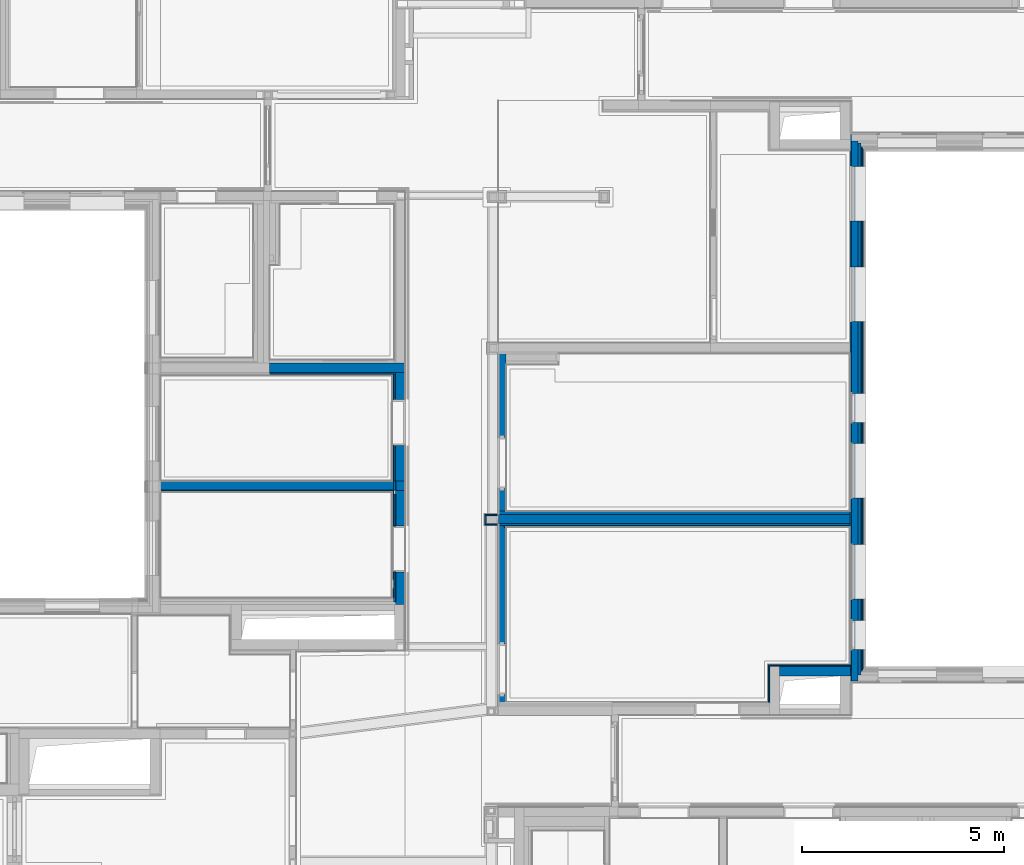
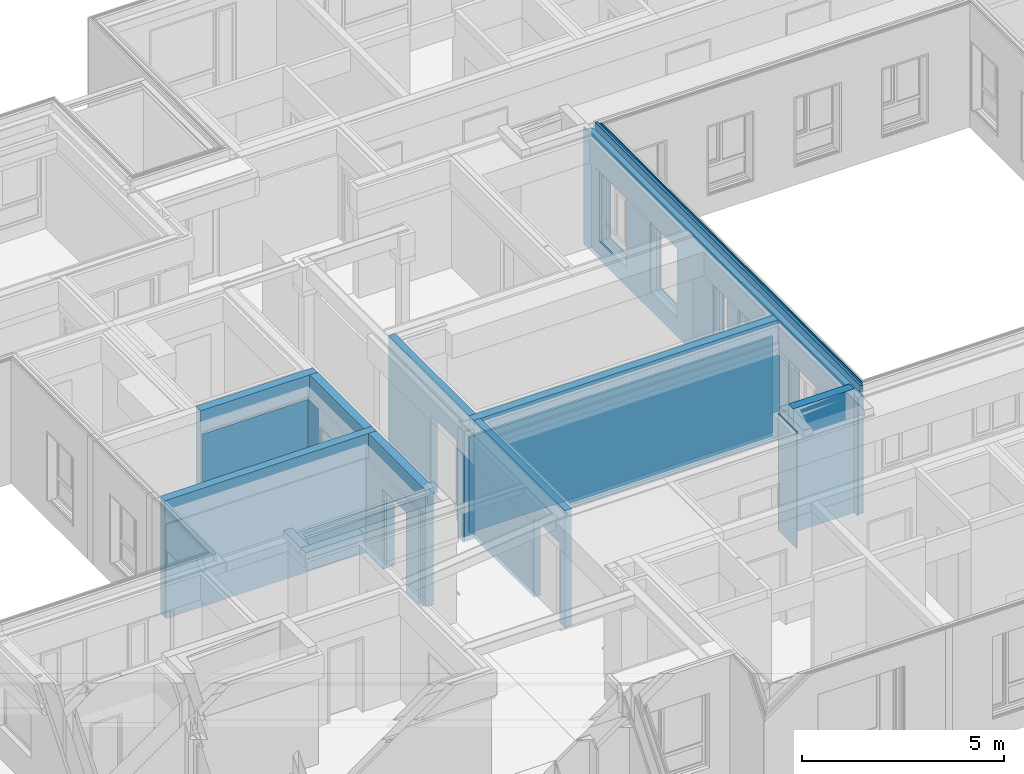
# One storey, part 44 of 222: 28 walls, 38 openings.
"""IFC4 building model written with IfcOpenShell, lengths in metres."""

from ifc_helpers import new_model, entity, si_unit, converted_unit, derived_unit, frame, frame_2d, origin, origin_with_axes, place, context, subcontext, project, spatial, polyline, rectangle, outline, extrude, clip, bounded_halfspace, material, element, save


model = new_model("IFC4")

# Units and contexts
model_context = context("Model", 3, precision=1e-05, world=origin())
body_context = subcontext(model_context, "Body", "Model", "MODEL_VIEW")
ifc_project = project(units=[si_unit("LENGTHUNIT", "METRE"), si_unit("AREAUNIT", "SQUARE_METRE"), si_unit("VOLUMEUNIT", "CUBIC_METRE"), si_unit("MASSUNIT", "GRAM", prefix="KILO"), converted_unit("PLANEANGLEUNIT", "DEGREE", entity("IfcPlaneAngleMeasure", 0.0174532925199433), si_unit("PLANEANGLEUNIT", "RADIAN"), dimensions=[0, 0, 0, 0, 0, 0, 0]), derived_unit("THERMALTRANSMITTANCEUNIT", [(si_unit("POWERUNIT", "WATT"), 1), (si_unit("THERMODYNAMICTEMPERATUREUNIT", "KELVIN"), -1), (si_unit("LENGTHUNIT", "METRE"), -2)]), derived_unit("VOLUMETRICFLOWRATEUNIT", [(si_unit("LENGTHUNIT", "METRE"), 3), (converted_unit("TIMEUNIT", "hour", entity("IfcTimeMeasure", 3600.0), si_unit("TIMEUNIT", "SECOND"), dimensions=[0, 0, 1, 0, 0, 0, 0]), -1), (si_unit("LENGTHUNIT", "METRE"), -1)])], contexts=[model_context])

# Site, building, storey
site_placement = place(None, origin())
site = spatial("IfcSite", under=ifc_project, at=site_placement, Name="Psychiatrie Neubau Wunstorf", CompositionType="ELEMENT")
building_placement = place(site_placement, origin())
building = spatial("IfcBuilding", under=site, at=building_placement, Name="Neubau H2 Stationsgebäude", CompositionType="ELEMENT")
storey_placement = place(building_placement, frame((0.0, 0.0, 3.6)))
storey = spatial("IfcBuildingStorey", under=building, at=storey_placement, Name="H2 Ebene +1", CompositionType="ELEMENT", Elevation=3.6)

# Wall, openings
ifc_material_1 = material(Name="WA-LB")
wall_1_placement = place(storey_placement, frame((79.139, 22.0, 0.0), z_axis=(0.0, 0.0, 1.0), x_axis=(0.0, -1.0, 0.0)))
wall_1 = element("IfcWall", 1, at=wall_1_placement, inside=storey, material=ifc_material_1, context=body_context, shape_type="SweptSolid", body=[
    extrude(rectangle(XDim=13.586, YDim=0.036, at=frame_2d((6.793, 0.018), x_axis=(1.0, 0.0))), origin_with_axes(), (0.0, 0.0, 1.0), 3.55),
])
opening_1_placement = place(wall_1_placement, frame((11.5165865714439, 0.036, 0.55), z_axis=(0.0, -1.0, 0.0), x_axis=(0.0, 0.0, 1.0)))
element("IfcOpeningElement", 2, at=opening_1_placement, cuts=wall_1, Name="Fensteröffnung", ObjectType="Opening", context=body_context, shape_type="SweptSolid", body=[
    extrude(outline(polyline([(2.115, 1.35), (2.115, 0.0), (0.0, 0.0), (0.0, 1.35), (2.115, 1.35)])), origin_with_axes(), (0.0, 0.0, 1.0), 0.036),
])
opening_2_placement = place(wall_1_placement, frame((9.01664412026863, 0.036, 0.55), z_axis=(0.0, -1.0, 0.0), x_axis=(0.0, 0.0, 1.0)))
element("IfcOpeningElement", 3, at=opening_2_placement, cuts=wall_1, Name="Fensteröffnung", ObjectType="Opening", context=body_context, shape_type="SweptSolid", body=[
    extrude(outline(polyline([(2.115, 1.35), (2.115, 0.0), (0.0, 0.0), (0.0, 1.35), (2.115, 1.35)])), origin_with_axes(), (0.0, 0.0, 1.0), 0.036),
])
opening_3_placement = place(wall_1_placement, frame((4.64200464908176, 0.036, 0.55), z_axis=(0.0, -1.0, 0.0), x_axis=(0.0, 0.0, 1.0)))
element("IfcOpeningElement", 4, at=opening_3_placement, cuts=wall_1, Name="Fensteröffnung", ObjectType="Opening", context=body_context, shape_type="SweptSolid", body=[
    extrude(outline(polyline([(2.115, 1.35), (2.115, 0.0), (0.0, 0.0), (0.0, 1.35), (2.115, 1.35)])), origin_with_axes(), (0.0, 0.0, 1.0), 0.036),
])
opening_4_placement = place(wall_1_placement, frame((2.14244478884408, 0.036, 0.55), z_axis=(0.0, -1.0, 0.0), x_axis=(0.0, 0.0, 1.0)))
element("IfcOpeningElement", 5, at=opening_4_placement, cuts=wall_1, Name="Fensteröffnung", ObjectType="Opening", context=body_context, shape_type="SweptSolid", body=[
    extrude(outline(polyline([(2.115, 1.35), (2.115, 0.0), (0.0, 0.0), (0.0, 1.35), (2.115, 1.35)])), origin_with_axes(), (0.0, 0.0, 1.0), 0.036),
])
opening_5_placement = place(wall_1_placement, frame((12.7649999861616, 0.036, 0.55), z_axis=(0.0, -1.0, 0.0), x_axis=(0.0, 0.0, 1.0)))
element("IfcOpeningElement", 6, at=opening_5_placement, cuts=wall_1, Name="Fensteröffnung", ObjectType="Opening", context=body_context, shape_type="SweptSolid", body=[
    extrude(outline(polyline([(2.115, 0.725), (2.115, 0.0), (0.0, 0.0), (0.0, 0.725), (2.115, 0.725)])), origin_with_axes(), (0.0, 0.0, 1.0), 0.036),
])
opening_6_placement = place(wall_1_placement, frame((7.14238722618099, 0.036, 0.55), z_axis=(0.0, -1.0, 0.0), x_axis=(0.0, 0.0, 1.0)))
element("IfcOpeningElement", 7, at=opening_6_placement, cuts=wall_1, Name="Fensteröffnung", ObjectType="Opening", context=body_context, shape_type="SweptSolid", body=[
    extrude(outline(polyline([(2.115, 0.725), (2.115, 0.0), (0.0, 0.0), (0.0, 0.725), (2.115, 0.725)])), origin_with_axes(), (0.0, 0.0, 1.0), 0.036),
])

ifc_material_2 = material(Name="WA-DL")
wall_2_placement = place(storey_placement, frame((79.175, 21.840001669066, 0.0), z_axis=(0.0, 0.0, 1.0), x_axis=(0.0, -1.0, 0.0)))
wall_2 = element("IfcWall", 8, at=wall_2_placement, inside=storey, material=ifc_material_2, context=body_context, shape_type="SweptSolid", body=[
    extrude(rectangle(XDim=13.390001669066, YDim=0.16, at=frame_2d((6.695000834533, 0.08), x_axis=(1.0, 0.0))), origin_with_axes(), (0.0, 0.0, 1.0), 3.55),
])
opening_7_placement = place(wall_2_placement, frame((11.3565882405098, 0.16, 0.55), z_axis=(0.0, -1.0, 0.0), x_axis=(0.0, 0.0, 1.0)))
element("IfcOpeningElement", 9, at=opening_7_placement, cuts=wall_2, Name="Fensteröffnung", ObjectType="Opening", context=body_context, shape_type="SweptSolid", body=[
    extrude(outline(polyline([(2.115, 1.35), (2.115, 0.0), (0.0, 0.0), (0.0, 1.35), (2.115, 1.35)])), origin_with_axes(), (0.0, 0.0, 1.0), 0.16),
])
opening_8_placement = place(wall_2_placement, frame((8.85664578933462, 0.16, 0.55), z_axis=(0.0, -1.0, 0.0), x_axis=(0.0, 0.0, 1.0)))
element("IfcOpeningElement", 10, at=opening_8_placement, cuts=wall_2, Name="Fensteröffnung", ObjectType="Opening", context=body_context, shape_type="SweptSolid", body=[
    extrude(outline(polyline([(2.115, 1.35), (2.115, 0.0), (0.0, 0.0), (0.0, 1.35), (2.115, 1.35)])), origin_with_axes(), (0.0, 0.0, 1.0), 0.16),
])
opening_9_placement = place(wall_2_placement, frame((4.48200631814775, 0.16, 0.55), z_axis=(0.0, -1.0, 0.0), x_axis=(0.0, 0.0, 1.0)))
element("IfcOpeningElement", 11, at=opening_9_placement, cuts=wall_2, Name="Fensteröffnung", ObjectType="Opening", context=body_context, shape_type="SweptSolid", body=[
    extrude(outline(polyline([(2.115, 1.35), (2.115, 0.0), (0.0, 0.0), (0.0, 1.35), (2.115, 1.35)])), origin_with_axes(), (0.0, 0.0, 1.0), 0.16),
])
opening_10_placement = place(wall_2_placement, frame((1.98244645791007, 0.16, 0.55), z_axis=(0.0, -1.0, 0.0), x_axis=(0.0, 0.0, 1.0)))
element("IfcOpeningElement", 12, at=opening_10_placement, cuts=wall_2, Name="Fensteröffnung", ObjectType="Opening", context=body_context, shape_type="SweptSolid", body=[
    extrude(outline(polyline([(2.115, 1.35), (2.115, 0.0), (0.0, 0.0), (0.0, 1.35), (2.115, 1.35)])), origin_with_axes(), (0.0, 0.0, 1.0), 0.16),
])
opening_11_placement = place(wall_2_placement, frame((12.6050016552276, 0.16, 0.55), z_axis=(0.0, -1.0, 0.0), x_axis=(0.0, 0.0, 1.0)))
element("IfcOpeningElement", 13, at=opening_11_placement, cuts=wall_2, Name="Fensteröffnung", ObjectType="Opening", context=body_context, shape_type="SweptSolid", body=[
    extrude(outline(polyline([(2.115, 0.725), (2.115, 0.0), (0.0, 0.0), (0.0, 0.725), (2.115, 0.725)])), origin_with_axes(), (0.0, 0.0, 1.0), 0.16),
])
opening_12_placement = place(wall_2_placement, frame((6.98238889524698, 0.16, 0.55), z_axis=(0.0, -1.0, 0.0), x_axis=(0.0, 0.0, 1.0)))
element("IfcOpeningElement", 14, at=opening_12_placement, cuts=wall_2, Name="Fensteröffnung", ObjectType="Opening", context=body_context, shape_type="SweptSolid", body=[
    extrude(outline(polyline([(2.115, 0.725), (2.115, 0.0), (0.0, 0.0), (0.0, 0.725), (2.115, 0.725)])), origin_with_axes(), (0.0, 0.0, 1.0), 0.16),
])

ifc_material_3 = material(Name="WA-DL")
wall_3_placement = place(storey_placement, frame((79.335, 21.780001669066, 0.0), z_axis=(0.0, 0.0, 1.0), x_axis=(0.0, -1.0, 0.0)))
wall_3 = element("IfcWall", 15, at=wall_3_placement, inside=storey, material=ifc_material_3, context=body_context, shape_type="SweptSolid", body=[
    extrude(rectangle(XDim=13.170001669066, YDim=0.08, at=frame_2d((6.585000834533, 0.04), x_axis=(1.0, 0.0))), origin_with_axes(), (0.0, 0.0, 1.0), 3.75),
])
opening_13_placement = place(wall_3_placement, frame((11.2965882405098, 0.08, 0.55), z_axis=(0.0, -1.0, 0.0), x_axis=(0.0, 0.0, 1.0)))
element("IfcOpeningElement", 16, at=opening_13_placement, cuts=wall_3, Name="Fensteröffnung", ObjectType="Opening", context=body_context, shape_type="SweptSolid", body=[
    extrude(outline(polyline([(2.115, 1.35), (2.115, 0.0), (0.0, 0.0), (0.0, 1.35), (2.115, 1.35)])), origin_with_axes(), (0.0, 0.0, 1.0), 0.08),
])
opening_14_placement = place(wall_3_placement, frame((8.79664578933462, 0.08, 0.55), z_axis=(0.0, -1.0, 0.0), x_axis=(0.0, 0.0, 1.0)))
element("IfcOpeningElement", 17, at=opening_14_placement, cuts=wall_3, Name="Fensteröffnung", ObjectType="Opening", context=body_context, shape_type="SweptSolid", body=[
    extrude(outline(polyline([(2.115, 1.35), (2.115, 0.0), (0.0, 0.0), (0.0, 1.35), (2.115, 1.35)])), origin_with_axes(), (0.0, 0.0, 1.0), 0.08),
])
opening_15_placement = place(wall_3_placement, frame((4.42200631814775, 0.08, 0.55), z_axis=(0.0, -1.0, 0.0), x_axis=(0.0, 0.0, 1.0)))
element("IfcOpeningElement", 18, at=opening_15_placement, cuts=wall_3, Name="Fensteröffnung", ObjectType="Opening", context=body_context, shape_type="SweptSolid", body=[
    extrude(outline(polyline([(2.115, 1.35), (2.115, 0.0), (0.0, 0.0), (0.0, 1.35), (2.115, 1.35)])), origin_with_axes(), (0.0, 0.0, 1.0), 0.08),
])
opening_16_placement = place(wall_3_placement, frame((1.92244645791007, 0.08, 0.55), z_axis=(0.0, -1.0, 0.0), x_axis=(0.0, 0.0, 1.0)))
element("IfcOpeningElement", 19, at=opening_16_placement, cuts=wall_3, Name="Fensteröffnung", ObjectType="Opening", context=body_context, shape_type="SweptSolid", body=[
    extrude(outline(polyline([(2.115, 1.35), (2.115, 0.0), (0.0, 0.0), (0.0, 1.35), (2.115, 1.35)])), origin_with_axes(), (0.0, 0.0, 1.0), 0.08),
])
opening_17_placement = place(wall_3_placement, frame((12.5450016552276, 0.08, 0.55), z_axis=(0.0, -1.0, 0.0), x_axis=(0.0, 0.0, 1.0)))
element("IfcOpeningElement", 20, at=opening_17_placement, cuts=wall_3, Name="Fensteröffnung", ObjectType="Opening", context=body_context, shape_type="SweptSolid", body=[
    extrude(outline(polyline([(2.115, 0.725), (2.115, 0.0), (0.0, 0.0), (0.0, 0.725), (2.115, 0.725)])), origin_with_axes(), (0.0, 0.0, 1.0), 0.08),
])
opening_18_placement = place(wall_3_placement, frame((6.92238889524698, 0.08, 0.55), z_axis=(0.0, -1.0, 0.0), x_axis=(0.0, 0.0, 1.0)))
element("IfcOpeningElement", 21, at=opening_18_placement, cuts=wall_3, Name="Fensteröffnung", ObjectType="Opening", context=body_context, shape_type="SweptSolid", body=[
    extrude(outline(polyline([(2.115, 0.725), (2.115, 0.0), (0.0, 0.0), (0.0, 0.725), (2.115, 0.725)])), origin_with_axes(), (0.0, 0.0, 1.0), 0.08),
])

ifc_material_4 = material(Name="WA-LB")
wall_4_placement = place(storey_placement, frame((79.415, 21.700001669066, 0.0), z_axis=(0.0, 0.0, 1.0), x_axis=(0.0, -1.0, 0.0)))
wall_4 = element("IfcWall", 22, at=wall_4_placement, inside=storey, material=ifc_material_4, context=body_context, shape_type="SweptSolid", body=[
    extrude(rectangle(XDim=13.0099924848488, YDim=0.036, at=frame_2d((6.50499624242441, 0.018), x_axis=(1.0, 0.0))), origin_with_axes(), (0.0, 0.0, 1.0), 3.75),
])
opening_19_placement = place(wall_4_placement, frame((11.2165882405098, 0.036, 0.55), z_axis=(0.0, -1.0, 0.0), x_axis=(0.0, 0.0, 1.0)))
element("IfcOpeningElement", 23, at=opening_19_placement, cuts=wall_4, Name="Fensteröffnung", ObjectType="Opening", context=body_context, shape_type="SweptSolid", body=[
    extrude(outline(polyline([(2.115, 1.35), (2.115, 0.0), (0.0, 0.0), (0.0, 1.35), (2.115, 1.35)])), origin_with_axes(), (0.0, 0.0, 1.0), 0.036),
])
opening_20_placement = place(wall_4_placement, frame((8.71664578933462, 0.036, 0.55), z_axis=(0.0, -1.0, 0.0), x_axis=(0.0, 0.0, 1.0)))
element("IfcOpeningElement", 24, at=opening_20_placement, cuts=wall_4, Name="Fensteröffnung", ObjectType="Opening", context=body_context, shape_type="SweptSolid", body=[
    extrude(outline(polyline([(2.115, 1.35), (2.115, 0.0), (0.0, 0.0), (0.0, 1.35), (2.115, 1.35)])), origin_with_axes(), (0.0, 0.0, 1.0), 0.036),
])
opening_21_placement = place(wall_4_placement, frame((4.34200631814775, 0.036, 0.55), z_axis=(0.0, -1.0, 0.0), x_axis=(0.0, 0.0, 1.0)))
element("IfcOpeningElement", 25, at=opening_21_placement, cuts=wall_4, Name="Fensteröffnung", ObjectType="Opening", context=body_context, shape_type="SweptSolid", body=[
    extrude(outline(polyline([(2.115, 1.35), (2.115, 0.0), (0.0, 0.0), (0.0, 1.35), (2.115, 1.35)])), origin_with_axes(), (0.0, 0.0, 1.0), 0.036),
])
opening_22_placement = place(wall_4_placement, frame((1.84244645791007, 0.036, 0.55), z_axis=(0.0, -1.0, 0.0), x_axis=(0.0, 0.0, 1.0)))
element("IfcOpeningElement", 26, at=opening_22_placement, cuts=wall_4, Name="Fensteröffnung", ObjectType="Opening", context=body_context, shape_type="SweptSolid", body=[
    extrude(outline(polyline([(2.115, 1.35), (2.115, 0.0), (0.0, 0.0), (0.0, 1.35), (2.115, 1.35)])), origin_with_axes(), (0.0, 0.0, 1.0), 0.036),
])
opening_23_placement = place(wall_4_placement, frame((12.4650016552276, 0.036, 0.55), z_axis=(0.0, -1.0, 0.0), x_axis=(0.0, 0.0, 1.0)))
element("IfcOpeningElement", 27, at=opening_23_placement, cuts=wall_4, Name="Fensteröffnung", ObjectType="Opening", context=body_context, shape_type="SweptSolid", body=[
    extrude(outline(polyline([(2.115, 0.725), (2.115, 0.0), (0.0, 0.0), (0.0, 0.725), (2.115, 0.725)])), origin_with_axes(), (0.0, 0.0, 1.0), 0.036),
])
opening_24_placement = place(wall_4_placement, frame((6.84238889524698, 0.036, 0.55), z_axis=(0.0, -1.0, 0.0), x_axis=(0.0, 0.0, 1.0)))
element("IfcOpeningElement", 28, at=opening_24_placement, cuts=wall_4, Name="Fensteröffnung", ObjectType="Opening", context=body_context, shape_type="SweptSolid", body=[
    extrude(outline(polyline([(2.115, 0.725), (2.115, 0.0), (0.0, 0.0), (0.0, 0.725), (2.115, 0.725)])), origin_with_axes(), (0.0, 0.0, 1.0), 0.036),
])

ifc_material_5 = material(Name="WA-KL")
wall_5_placement = place(storey_placement, frame((79.451, 21.664001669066, 0.0), z_axis=(0.0, 0.0, 1.0), x_axis=(0.0, -1.0, 0.0)))
wall_5 = element("IfcWall", 29, at=wall_5_placement, inside=storey, material=ifc_material_5, context=body_context, shape_type="SweptSolid", body=[
    extrude(rectangle(XDim=12.9379924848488, YDim=0.024, at=frame_2d((6.46899624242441, 0.012), x_axis=(1.0, 0.0))), origin_with_axes(), (0.0, 0.0, 1.0), 3.75),
])
opening_25_placement = place(wall_5_placement, frame((11.1805882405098, 0.024, 0.55), z_axis=(0.0, -1.0, 0.0), x_axis=(0.0, 0.0, 1.0)))
element("IfcOpeningElement", 30, at=opening_25_placement, cuts=wall_5, Name="Fensteröffnung", ObjectType="Opening", context=body_context, shape_type="SweptSolid", body=[
    extrude(outline(polyline([(2.115, 1.35), (2.115, 0.0), (0.0, 0.0), (0.0, 1.35), (2.115, 1.35)])), origin_with_axes(), (0.0, 0.0, 1.0), 0.024),
])
opening_26_placement = place(wall_5_placement, frame((8.68064578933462, 0.024, 0.55), z_axis=(0.0, -1.0, 0.0), x_axis=(0.0, 0.0, 1.0)))
element("IfcOpeningElement", 31, at=opening_26_placement, cuts=wall_5, Name="Fensteröffnung", ObjectType="Opening", context=body_context, shape_type="SweptSolid", body=[
    extrude(outline(polyline([(2.115, 1.35), (2.115, 0.0), (0.0, 0.0), (0.0, 1.35), (2.115, 1.35)])), origin_with_axes(), (0.0, 0.0, 1.0), 0.024),
])
opening_27_placement = place(wall_5_placement, frame((4.30600631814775, 0.024, 0.55), z_axis=(0.0, -1.0, 0.0), x_axis=(0.0, 0.0, 1.0)))
element("IfcOpeningElement", 32, at=opening_27_placement, cuts=wall_5, Name="Fensteröffnung", ObjectType="Opening", context=body_context, shape_type="SweptSolid", body=[
    extrude(outline(polyline([(2.115, 1.35), (2.115, 0.0), (0.0, 0.0), (0.0, 1.35), (2.115, 1.35)])), origin_with_axes(), (0.0, 0.0, 1.0), 0.024),
])
opening_28_placement = place(wall_5_placement, frame((1.80644645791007, 0.024, 0.55), z_axis=(0.0, -1.0, 0.0), x_axis=(0.0, 0.0, 1.0)))
element("IfcOpeningElement", 33, at=opening_28_placement, cuts=wall_5, Name="Fensteröffnung", ObjectType="Opening", context=body_context, shape_type="SweptSolid", body=[
    extrude(outline(polyline([(2.115, 1.35), (2.115, 0.0), (0.0, 0.0), (0.0, 1.35), (2.115, 1.35)])), origin_with_axes(), (0.0, 0.0, 1.0), 0.024),
])
opening_29_placement = place(wall_5_placement, frame((12.4290016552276, 0.024, 0.55), z_axis=(0.0, -1.0, 0.0), x_axis=(0.0, 0.0, 1.0)))
element("IfcOpeningElement", 34, at=opening_29_placement, cuts=wall_5, Name="Fensteröffnung", ObjectType="Opening", context=body_context, shape_type="SweptSolid", body=[
    extrude(outline(polyline([(2.115, 0.725), (2.115, 0.0), (0.0, 0.0), (0.0, 0.725), (2.115, 0.725)])), origin_with_axes(), (0.0, 0.0, 1.0), 0.024),
])
opening_30_placement = place(wall_5_placement, frame((6.80638889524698, 0.024, 0.55), z_axis=(0.0, -1.0, 0.0), x_axis=(0.0, 0.0, 1.0)))
element("IfcOpeningElement", 35, at=opening_30_placement, cuts=wall_5, Name="Fensteröffnung", ObjectType="Opening", context=body_context, shape_type="SweptSolid", body=[
    extrude(outline(polyline([(2.115, 0.725), (2.115, 0.0), (0.0, 0.0), (0.0, 0.725), (2.115, 0.725)])), origin_with_axes(), (0.0, 0.0, 1.0), 0.024),
])

# Walls
ifc_material_6 = material(Name="WI-LB")
wall_6_placement = place(storey_placement, frame((77.15, 7.92950000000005, 0.0), z_axis=(0.0, 0.0, 1.0), x_axis=(0.0, 1.0, 0.0)))
element("IfcWall", 36, at=wall_6_placement, inside=storey, material=ifc_material_6, context=body_context, shape_type="SweptSolid", body=[
    extrude(rectangle(XDim=0.8955, YDim=0.0299996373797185, at=frame_2d((0.44775, 0.0149998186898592), x_axis=(1.0, 0.0))), origin_with_axes(), (0.0, 0.0, 1.0), 3.55),
])
ifc_material_7 = material(Name="WI-GKF")
wall_7_placement = place(storey_placement, frame((70.135000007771, 12.3140595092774, 0.0)))
element("IfcWall", 37, at=wall_7_placement, inside=storey, material=ifc_material_7, context=body_context, shape_type="SweptSolid", body=[
    extrude(rectangle(XDim=0.264999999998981, YDim=0.036, at=frame_2d((0.132499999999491, 0.018), x_axis=(1.0, 0.0))), origin_with_axes(), (0.0, 0.0, 1.0), 3.317),
])
ifc_material_8 = material(Name="WI-GKF")
wall_8_placement = place(storey_placement, frame((70.4000000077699, 12.5860595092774, 0.0), z_axis=(0.0, 0.0, 1.0), x_axis=(-1.0, 0.0, 0.0)))
element("IfcWall", 38, at=wall_8_placement, inside=storey, material=ifc_material_8, context=body_context, shape_type="Clipping", body=[
    clip(extrude(rectangle(XDim=0.264999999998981, YDim=0.036, at=frame_2d((0.132499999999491, 0.018), x_axis=(1.0, 0.0))), origin_with_axes(), (0.0, 0.0, 1.0), 3.317), bounded_halfspace(frame((0.0999969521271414, 0.018, 3.15), z_axis=(0.0, 0.0, -1.0), x_axis=(0.0, 1.0, 0.0)), True, origin_with_axes(), polyline([(0.199993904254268, 0.0), (0.199993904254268, 0.036), (0.0, 0.036), (0.0, 0.0), (0.199993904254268, 0.0)]))),
])
ifc_material_9 = material(Name="WI-GKF")
wall_9_placement = place(storey_placement, frame((70.099000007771, 12.5860595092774, 0.0), z_axis=(0.0, 0.0, 1.0), x_axis=(0.0, -1.0, 0.0)))
element("IfcWall", 39, at=wall_9_placement, inside=storey, material=ifc_material_9, context=body_context, shape_type="SweptSolid", body=[
    extrude(rectangle(XDim=0.272, YDim=0.036, at=frame_2d((0.136, 0.018), x_axis=(1.0, 0.0))), origin_with_axes(), (0.0, 0.0, 1.0), 3.317),
])
ifc_material_10 = material(Name="WI-HW 60")
wall_10_placement = place(storey_placement, frame((68.1175, 16.336000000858, 0.0), z_axis=(0.0, 0.0, 1.0), x_axis=(-1.0, 5.41768995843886e-16, 0.0)))
element("IfcWall", 40, at=wall_10_placement, inside=storey, material=ifc_material_10, context=body_context, shape_type="SweptSolid", body=[
    extrude(rectangle(XDim=3.35750000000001, YDim=0.232000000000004, at=frame_2d((1.67875000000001, 0.116000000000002), x_axis=(1.0, 0.0))), origin_with_axes(), (0.0, 0.0, 1.0), 3.55),
])
ifc_material_11 = material(Name="Installationsraum")
wall_11_placement = place(storey_placement, frame((67.8855, 16.104000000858, 0.0), z_axis=(0.0, 0.0, 1.0), x_axis=(-1.0, 5.81983491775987e-16, 0.0)))
element("IfcWall", 41, at=wall_11_placement, inside=storey, material=ifc_material_11, context=body_context, shape_type="SweptSolid", body=[
    extrude(rectangle(XDim=3.12550000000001, YDim=0.05, at=frame_2d((1.56275000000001, 0.025), x_axis=(1.0, 0.0))), origin_with_axes(), (0.0, 0.0, 1.0), 2.9),
])
ifc_material_12 = material(Name="WI-LB")
wall_12_placement = place(storey_placement, frame((67.8355, 16.054000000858, 0.0), z_axis=(0.0, 0.0, 1.0), x_axis=(-1.0, 5.91445099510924e-16, 0.0)))
element("IfcWall", 42, at=wall_12_placement, inside=storey, material=ifc_material_12, context=body_context, shape_type="SweptSolid", body=[
    extrude(rectangle(XDim=3.07550000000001, YDim=0.04, at=frame_2d((1.53775000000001, 0.02), x_axis=(1.0, 0.0))), origin_with_axes(), (0.0, 0.0, 1.0), 2.9),
])

# Wall, opening
ifc_material_13 = material(Name="WI-LB")
wall_13_placement = place(storey_placement, frame((67.7955, 13.1374966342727, 0.0), z_axis=(0.0, 0.0, 1.0), x_axis=(0.0, -1.0, 0.0)))
wall_13 = element("IfcWall", 43, at=wall_13_placement, inside=storey, material=ifc_material_13, context=body_context, shape_type="SweptSolid", body=[
    extrude(rectangle(XDim=2.61650318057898, YDim=0.0400000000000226, at=frame_2d((1.30825159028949, 0.0200000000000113), x_axis=(1.0, 0.0))), origin_with_axes(), (0.0, 0.0, 1.0), 2.85),
])
opening_31_placement = place(wall_13_placement, frame((1.97892492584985, 0.04, 0.0), z_axis=(0.0, -1.0, 0.0), x_axis=(0.0, 0.0, 1.0)))
element("IfcOpeningElement", 44, at=opening_31_placement, cuts=wall_13, Name="Türöffnung", ObjectType="Opening", context=body_context, shape_type="SweptSolid", body=[
    extrude(outline(polyline([(2.41, 1.135), (2.41, 0.0), (0.0, 0.0), (0.0, 1.135), (2.41, 1.135)])), origin_with_axes(), (0.0, 0.0, 1.0), 0.04),
])

ifc_material_14 = material(Name="Installationsraum")
wall_14_placement = place(storey_placement, frame((67.8355, 13.4094966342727, 0.0), z_axis=(0.0, 0.0, 1.0), x_axis=(0.0, -1.0, 0.0)))
wall_14 = element("IfcWall", 45, at=wall_14_placement, inside=storey, material=ifc_material_14, context=body_context, shape_type="SweptSolid", body=[
    extrude(rectangle(XDim=2.66650322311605, YDim=0.0500000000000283, at=frame_2d((1.33325163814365, 0.025), x_axis=(1.0, 0.0))), frame((0.322, 0.0, 0.0), z_axis=(0.0, 0.0, 1.0), x_axis=(1.0, 0.0, 0.0)), (0.0, 0.0, 1.0), 2.85),
    extrude(rectangle(XDim=0.232, YDim=0.05, at=frame_2d((0.116, 0.025), x_axis=(1.0, 0.0))), origin_with_axes(), (0.0, 0.0, 1.0), 2.85),
])
opening_32_placement = place(wall_14_placement, frame((2.25092492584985, 0.05, 0.0), z_axis=(0.0, -1.0, 0.0), x_axis=(0.0, 0.0, 1.0)))
element("IfcOpeningElement", 46, at=opening_32_placement, cuts=wall_14, Name="Türöffnung", ObjectType="Opening", context=body_context, shape_type="SweptSolid", body=[
    extrude(outline(polyline([(2.41, 1.135), (2.41, 0.0), (0.0, 0.0), (0.0, 1.135), (2.41, 1.135)])), origin_with_axes(), (0.0, 0.0, 1.0), 0.05),
])

ifc_material_15 = material(Name="WI-HW 60")
wall_15_placement = place(storey_placement, frame((67.8855, 13.1774966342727, 0.0), z_axis=(0.0, 0.0, 1.0), x_axis=(0.0, -1.0, 0.0)))
wall_15 = element("IfcWall", 47, at=wall_15_placement, inside=storey, material=ifc_material_15, context=body_context, shape_type="SweptSolid", body=[
    extrude(rectangle(XDim=2.83149694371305, YDim=0.232, at=frame_2d((1.41574847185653, 0.116), x_axis=(1.0, 0.0))), origin_with_axes(), (0.0, 0.0, 1.0), 3.55),
])
opening_33_placement = place(wall_15_placement, frame((2.01892492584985, 0.232, 0.0), z_axis=(0.0, -1.0, 0.0), x_axis=(0.0, 0.0, 1.0)))
element("IfcOpeningElement", 48, at=opening_33_placement, cuts=wall_15, Name="Türöffnung", ObjectType="Opening", context=body_context, shape_type="SweptSolid", body=[
    extrude(outline(polyline([(2.41, 1.135), (2.41, 0.0), (0.0, 0.0), (0.0, 1.135), (2.41, 1.135)])), origin_with_axes(), (0.0, 0.0, 1.0), 0.232),
])

ifc_material_16 = material(Name="WI-LB")
wall_16_placement = place(storey_placement, frame((67.7955, 16.014000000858, 0.0), z_axis=(0.0, 0.0, 1.0), x_axis=(0.0, -1.0, 0.0)))
wall_16 = element("IfcWall", 49, at=wall_16_placement, inside=storey, material=ifc_material_16, context=body_context, shape_type="SweptSolid", body=[
    extrude(rectangle(XDim=2.60450336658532, YDim=0.04, at=frame_2d((1.30225168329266, 0.02), x_axis=(1.0, 0.0))), origin_with_axes(), (0.0, 0.0, 1.0), 2.9),
])
opening_34_placement = place(wall_16_placement, frame((1.724, 0.04, 0.0), z_axis=(0.0, -1.0, 0.0), x_axis=(0.0, 0.0, 1.0)))
element("IfcOpeningElement", 50, at=opening_34_placement, cuts=wall_16, Name="Türöffnung", ObjectType="Opening", context=body_context, shape_type="SweptSolid", body=[
    extrude(outline(polyline([(2.41, 1.135), (2.41, 0.0), (0.0, 0.0), (0.0, 1.135), (2.41, 1.135)])), origin_with_axes(), (0.0, 0.0, 1.0), 0.04),
])

ifc_material_17 = material(Name="Installationsraum")
wall_17_placement = place(storey_placement, frame((67.8355, 16.054000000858, 0.0), z_axis=(0.0, 0.0, 1.0), x_axis=(0.0, -1.0, 0.0)))
wall_17 = element("IfcWall", 51, at=wall_17_placement, inside=storey, material=ifc_material_17, context=body_context, shape_type="SweptSolid", body=[
    extrude(rectangle(XDim=2.64450336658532, YDim=0.05, at=frame_2d((1.32225168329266, 0.025), x_axis=(1.0, 0.0))), origin_with_axes(), (0.0, 0.0, 1.0), 2.9),
])
opening_35_placement = place(wall_17_placement, frame((1.764, 0.05, 0.0), z_axis=(0.0, -1.0, 0.0), x_axis=(0.0, 0.0, 1.0)))
element("IfcOpeningElement", 52, at=opening_35_placement, cuts=wall_17, Name="Türöffnung", ObjectType="Opening", context=body_context, shape_type="SweptSolid", body=[
    extrude(outline(polyline([(2.41, 1.135), (2.41, 0.0), (0.0, 0.0), (0.0, 1.135), (2.41, 1.135)])), origin_with_axes(), (0.0, 0.0, 1.0), 0.05),
])

ifc_material_18 = material(Name="WI-HW 60")
wall_18_placement = place(storey_placement, frame((67.8855, 16.104000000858, 0.0), z_axis=(0.0, 0.0, 1.0), x_axis=(0.0, -1.0, 0.0)))
wall_18 = element("IfcWall", 53, at=wall_18_placement, inside=storey, material=ifc_material_18, context=body_context, shape_type="SweptSolid", body=[
    extrude(rectangle(XDim=2.69450336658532, YDim=0.232, at=frame_2d((1.34725168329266, 0.116), x_axis=(1.0, 0.0))), origin_with_axes(), (0.0, 0.0, 1.0), 3.55),
])
opening_36_placement = place(wall_18_placement, frame((1.814, 0.232, 0.0), z_axis=(0.0, -1.0, 0.0), x_axis=(0.0, 0.0, 1.0)))
element("IfcOpeningElement", 54, at=opening_36_placement, cuts=wall_18, Name="Türöffnung", ObjectType="Opening", context=body_context, shape_type="SweptSolid", body=[
    extrude(outline(polyline([(2.41, 1.135), (2.41, 0.0), (0.0, 0.0), (0.0, 1.135), (2.41, 1.135)])), origin_with_axes(), (0.0, 0.0, 1.0), 0.232),
])

# Walls
ifc_material_19 = material(Name="WI-LB")
wall_19_placement = place(storey_placement, frame((79.15, 8.85499963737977, 0.0), z_axis=(0.0, 0.0, 1.0), x_axis=(-1.0, 0.0, 0.0)))
element("IfcWall", 55, at=wall_19_placement, inside=storey, material=ifc_material_19, context=body_context, shape_type="SweptSolid", body=[
    extrude(rectangle(XDim=2.02999963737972, YDim=0.0299996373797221, at=frame_2d((1.01499981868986, 0.0149998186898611), x_axis=(1.0, 0.0))), origin_with_axes(), (0.0, 0.0, 1.0), 3.55),
])
ifc_material_20 = material(Name="WI-STB")
wall_20_placement = place(storey_placement, frame((79.15, 8.82500000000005, 0.0), z_axis=(0.0, 0.0, 1.0), x_axis=(-1.0, 0.0, 0.0)))
element("IfcWall", 56, at=wall_20_placement, inside=storey, material=ifc_material_20, context=body_context, shape_type="SweptSolid", body=[
    extrude(rectangle(XDim=1.75, YDim=0.25, at=frame_2d((0.875, 0.125), x_axis=(1.0, 0.0))), origin_with_axes(), (0.0, 0.0, 1.0), 3.75),
])
ifc_material_21 = material(Name="WI-HW 60")
wall_21_placement = place(storey_placement, frame((68.1175, 13.4094966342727, 0.0), z_axis=(0.0, 0.0, 1.0), x_axis=(-1.0, 3.00336730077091e-16, 0.0)))
element("IfcWall", 57, at=wall_21_placement, inside=storey, material=ifc_material_21, context=body_context, shape_type="SweptSolid", body=[
    extrude(rectangle(XDim=6.05649999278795, YDim=0.232, at=frame_2d((3.02824999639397, 0.116), x_axis=(1.0, 0.0))), origin_with_axes(), (0.0, 0.0, 1.0), 3.55),
])
ifc_material_22 = material(Name="WI-LB")
wall_22_placement = place(storey_placement, frame((67.8355, 13.1774966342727, 0.0), z_axis=(0.0, 0.0, 1.0), x_axis=(-1.0, 3.15003793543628e-16, 0.0)))
element("IfcWall", 58, at=wall_22_placement, inside=storey, material=ifc_material_22, context=body_context, shape_type="SweptSolid", body=[
    extrude(rectangle(XDim=5.77449999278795, YDim=0.04, at=frame_2d((2.88724999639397, 0.02), x_axis=(1.0, 0.0))), origin_with_axes(), (0.0, 0.0, 1.0), 2.85),
])

# Wall, opening
ifc_material_23 = material(Name="WI-LB")
wall_23_placement = place(storey_placement, frame((70.429999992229, 12.354, 0.0), z_axis=(0.0, 0.0, 1.0), x_axis=(0.0, -1.0, 0.0)))
wall_23 = element("IfcWall", 59, at=wall_23_placement, inside=storey, material=ifc_material_23, context=body_context, shape_type="SweptSolid", body=[
    extrude(rectangle(XDim=4.51450000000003, YDim=0.19, at=frame_2d((2.25725000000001, 0.095), x_axis=(1.0, 0.0))), origin_with_axes(), (0.0, 0.0, 1.0), 3.55),
])
opening_37_placement = place(wall_23_placement, frame((4.23899586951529, 0.19, 0.0), z_axis=(0.0, -1.0, 0.0), x_axis=(0.0, 0.0, 1.0)))
element("IfcOpeningElement", 60, at=opening_37_placement, cuts=wall_23, Name="Türöffnung", ObjectType="Opening", context=body_context, shape_type="SweptSolid", body=[
    extrude(outline(polyline([(2.41, 1.26), (2.41, 0.0), (0.0, 0.0), (0.0, 1.26), (2.41, 1.26)])), origin_with_axes(), (0.0, 0.0, 1.0), 0.19),
])

ifc_material_24 = material(Name="WI-LB")
wall_24_placement = place(storey_placement, frame((70.4300000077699, 16.6005, 0.0), z_axis=(0.0, 0.0, 1.0), x_axis=(0.0, -1.0, 0.0)))
wall_24 = element("IfcWall", 61, at=wall_24_placement, inside=storey, material=ifc_material_24, context=body_context, shape_type="SweptSolid", body=[
    extrude(rectangle(XDim=4.01449999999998, YDim=0.19, at=frame_2d((2.00724999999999, 0.095), x_axis=(1.0, 0.0))), origin_with_axes(), (0.0, 0.0, 1.0), 3.55),
])
opening_38_placement = place(wall_24_placement, frame((3.37549999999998, 0.19, 0.0), z_axis=(0.0, -1.0, 0.0), x_axis=(0.0, 0.0, 1.0)))
element("IfcOpeningElement", 62, at=opening_38_placement, cuts=wall_24, Name="Türöffnung", ObjectType="Opening", context=body_context, shape_type="SweptSolid", body=[
    extrude(outline(polyline([(2.41, 1.26), (2.41, 0.0), (0.0, 0.0), (0.0, 1.26), (2.41, 1.26)])), origin_with_axes(), (0.0, 0.0, 1.0), 0.19),
])

# Walls
ifc_material_25 = material(Name="WI-LB")
wall_25_placement = place(storey_placement, frame((70.58, 12.264, 0.0), z_axis=(0.0, 0.0, 1.0), x_axis=(1.0, -2.12523589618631e-16, 0.0)))
element("IfcWall", 63, at=wall_25_placement, inside=storey, material=ifc_material_25, context=body_context, shape_type="SweptSolid", body=[
    extrude(rectangle(XDim=8.55899999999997, YDim=0.04, at=frame_2d((4.27949999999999, 0.02), x_axis=(1.0, 0.0))), origin_with_axes(), (0.0, 0.0, 1.0), 2.9),
])
ifc_material_26 = material(Name="Installationsraum")
wall_26_placement = place(storey_placement, frame((70.4300000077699, 12.304, 0.0), z_axis=(0.0, 0.0, 1.0), x_axis=(1.0, -2.08863176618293e-16, 0.0)))
element("IfcWall", 64, at=wall_26_placement, inside=storey, material=ifc_material_26, context=body_context, shape_type="SweptSolid", body=[
    extrude(rectangle(XDim=8.70899999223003, YDim=0.05, at=frame_2d((4.35449999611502, 0.025), x_axis=(1.0, 0.0))), origin_with_axes(), (0.0, 0.0, 1.0), 2.9),
])
ifc_material_27 = material(Name="WI-HW 60")
wall_27_placement = place(storey_placement, frame((70.4300000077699, 12.354, 0.0), z_axis=(0.0, 0.0, 1.0), x_axis=(1.0, -2.08863176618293e-16, 0.0)))
element("IfcWall", 65, at=wall_27_placement, inside=storey, material=ifc_material_27, context=body_context, shape_type="SweptSolid", body=[
    extrude(rectangle(XDim=8.70899999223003, YDim=0.232, at=frame_2d((4.35449999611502, 0.116), x_axis=(1.0, 0.0))), origin_with_axes(), (0.0, 0.0, 1.0), 3.55),
])
ifc_material_28 = material(Name="WI-IW")
wall_28_placement = place(storey_placement, frame((70.4300000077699, 12.586, 0.0), z_axis=(0.0, 0.0, 1.0), x_axis=(1.0, -2.08863176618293e-16, 0.0)))
element("IfcWall", 66, at=wall_28_placement, inside=storey, material=ifc_material_28, context=body_context, shape_type="SweptSolid", body=[
    extrude(rectangle(XDim=8.70899999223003, YDim=0.075, at=frame_2d((4.35449999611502, 0.0375), x_axis=(1.0, 0.0))), origin_with_axes(), (0.0, 0.0, 1.0), 2.9),
])

save(model, "model.ifc")
